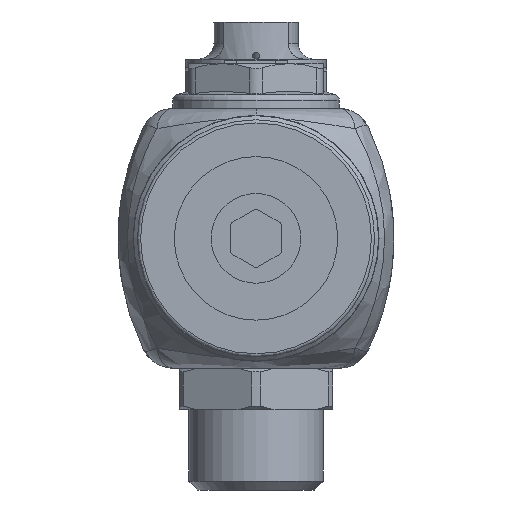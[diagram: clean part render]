
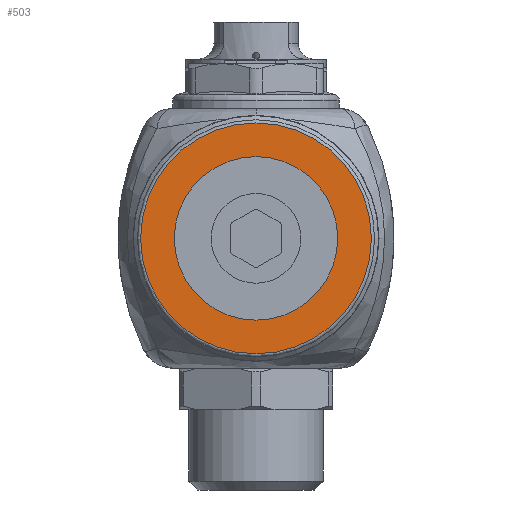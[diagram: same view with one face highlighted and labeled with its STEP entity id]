
A CAD part, front view. The second image highlights one B-rep face of the part: STEP entity #503.
In plain terms, the highlighted planar face has unit normal (0, -1, 0).
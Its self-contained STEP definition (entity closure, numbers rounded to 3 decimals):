
#503=ADVANCED_FACE('',(#14267,#14269),#14271,.F.);
#14267=FACE_BOUND('',#14268,.T.);
#14268=EDGE_LOOP('',(#19373));
#14269=FACE_BOUND('',#14270,.T.);
#14270=EDGE_LOOP('',(#19374));
#14271=PLANE('',#14272);
#14272=AXIS2_PLACEMENT_3D('',#14273,#14274,#14275);
#14273=CARTESIAN_POINT('',(0.,-145.75,0.));
#14274=DIRECTION('',(0.,1.,0.));
#14275=DIRECTION('',(-1.,0.,0.));
#19373=ORIENTED_EDGE('',*,*,#23489,.T.);
#19374=ORIENTED_EDGE('',*,*,#23513,.T.);
#23489=EDGE_CURVE('',#26826,#26826,#26827,.T.);
#23513=EDGE_CURVE('',#26863,#26863,#26864,.F.);
#26826=VERTEX_POINT('',#45706);
#26827=CIRCLE('',#45707,18.);
#26863=VERTEX_POINT('',#45794);
#26864=CIRCLE('',#45795,12.75);
#45706=CARTESIAN_POINT('',(18.,-145.75,0.));
#45707=AXIS2_PLACEMENT_3D('',#45708,#45709,#45710);
#45708=CARTESIAN_POINT('',(0.,-145.75,0.));
#45709=DIRECTION('',(0.,-1.,0.));
#45710=DIRECTION('',(1.,0.,0.));
#45794=CARTESIAN_POINT('',(12.75,-145.75,0.));
#45795=AXIS2_PLACEMENT_3D('',#45796,#45797,#45798);
#45796=CARTESIAN_POINT('',(0.,-145.75,0.));
#45797=DIRECTION('',(0.,-1.,0.));
#45798=DIRECTION('',(1.,0.,0.));
